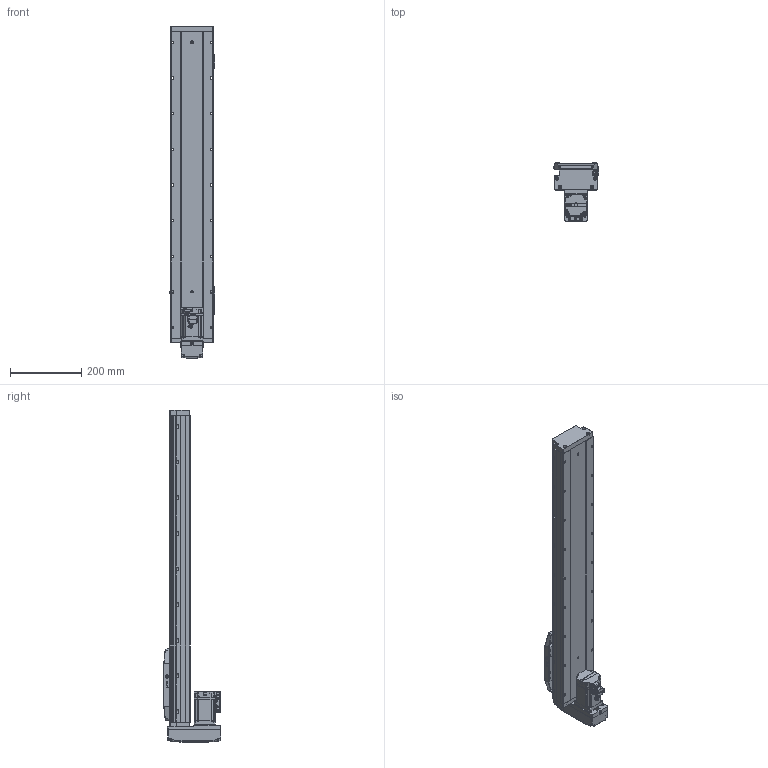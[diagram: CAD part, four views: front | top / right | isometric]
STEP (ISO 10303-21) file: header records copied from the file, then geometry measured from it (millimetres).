
FILE_DESCRIPTION (( 'STEP AP203' ), '1' );
FILE_NAME ('13.STEP', '2021-03-04T00:46:50', ( '' ), ( '' ), 'SwSTEP 2.0', 'SolidWorks 2016', '' );
FILE_SCHEMA (( 'CONFIG_CONTROL_DESIGN' ));
Length unit declared in the file: millimetre
Products named in the file (10): CTH12-BM-02; MS1H1-40B30CB-A331Z-S_ASM_1; PM-Y45; CTH12-BM -04; 13; CTH12-BM-01; CTH12-BM-HZ; CTH12-BM-菁釱; CTH12-BM-07; CTH12-BM-05
Assembly tree (14 placements, depth 2):
  13
    CTH12-BM-菁釱
    CTH12-BM-01
    CTH12-BM -04
    CTH12-BM-05  x2
    CTH12-BM-07  x3
    CTH12-BM-HZ
    PM-Y45  x3
    MS1H1-40B30CB-A331Z-S_ASM_1
    CTH12-BM-02
Bounding box: 129 x 162.5 x 931.5 mm (x, y, z)
Volume: 5822399.2 mm3; surface area: 646420.5 mm2
Topology: 25 solids, 51 shells, 3455 faces, 9287 edges, 5994 vertices
Faces by surface type: plane 1923, cylinder 1005, bspline 323, cone 204
Entity records: 113546 total; most frequent: CARTESIAN_POINT 32673, ORIENTED_EDGE 17160, DIRECTION 15732, EDGE_CURVE 8596, VERTEX_POINT 5594, VECTOR 5580, LINE 5580, AXIS2_PLACEMENT_3D 5076
